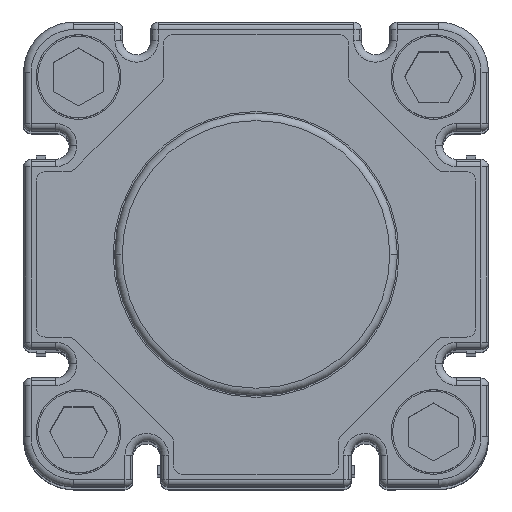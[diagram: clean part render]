
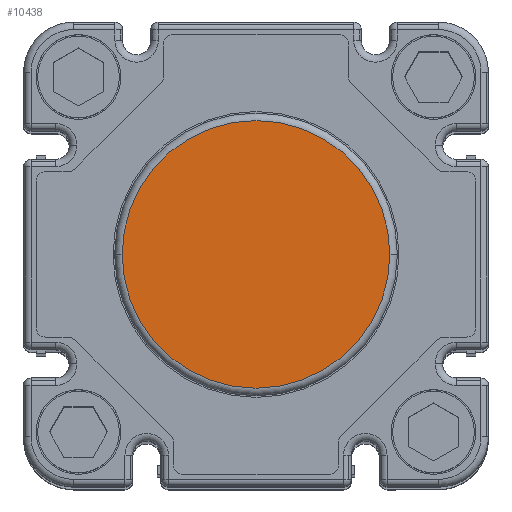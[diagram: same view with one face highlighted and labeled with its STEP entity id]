
A CAD part, top view. The second image highlights one B-rep face of the part: STEP entity #10438.
In plain terms, the highlighted planar face has unit normal (0, 0, 1).
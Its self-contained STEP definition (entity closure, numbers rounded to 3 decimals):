
#4182=CARTESIAN_POINT('',(-12.8,-8.5,254.5));
#4183=VERTEX_POINT('',#4182);
#4191=CARTESIAN_POINT('',(29.8,-8.5,254.5));
#4192=VERTEX_POINT('',#4191);
#4193=CARTESIAN_POINT('',(8.5,-8.5,254.5));
#4194=DIRECTION('',(0.0,0.0,-1.0));
#4195=DIRECTION('',(-1.0,0.0,0.0));
#4196=AXIS2_PLACEMENT_3D('',#4193,#4194,#4195);
#4197=CIRCLE('',#4196,21.3);
#4198=EDGE_CURVE('',#4183,#4192,#4197,.T.);
#10407=CARTESIAN_POINT('',(8.5,-8.5,254.5));
#10408=DIRECTION('',(0.0,0.0,-1.0));
#10409=DIRECTION('',(-1.0,0.0,0.0));
#10410=AXIS2_PLACEMENT_3D('',#10407,#10408,#10409);
#10411=CIRCLE('',#10410,21.3);
#10412=EDGE_CURVE('',#4192,#4183,#10411,.T.);
#10429=CARTESIAN_POINT('',(21.25,-21.25,254.5));
#10430=DIRECTION('',(0.0,0.0,1.0));
#10431=DIRECTION('',(1.0,0.0,0.0));
#10432=AXIS2_PLACEMENT_3D('',#10429,#10430,#10431);
#10433=PLANE('',#10432);
#10434=ORIENTED_EDGE('',*,*,#10412,.F.);
#10435=ORIENTED_EDGE('',*,*,#4198,.F.);
#10436=EDGE_LOOP('',(#10434,#10435));
#10437=FACE_OUTER_BOUND('',#10436,.T.);
#10438=ADVANCED_FACE('',(#10437),#10433,.T.);
